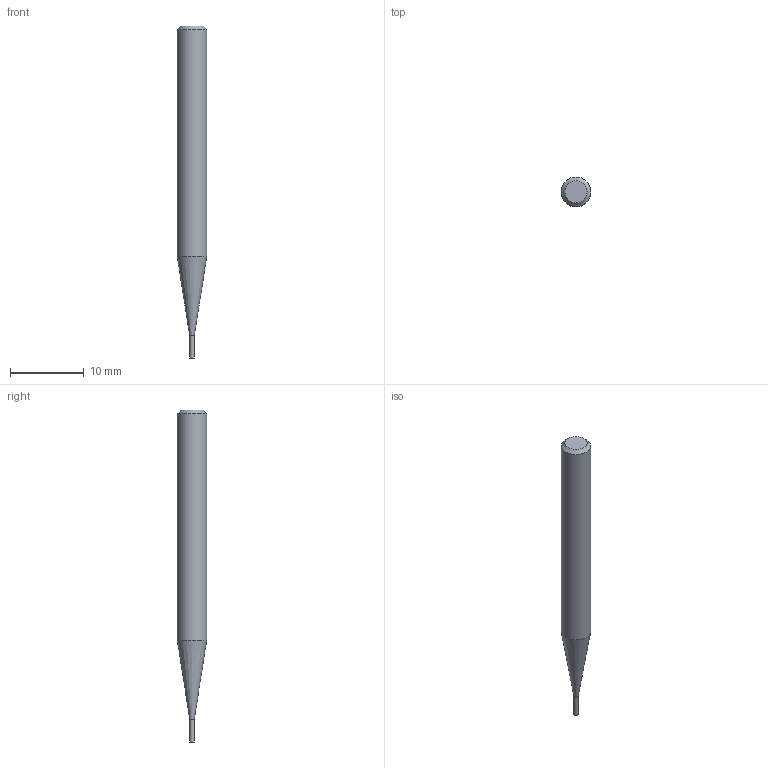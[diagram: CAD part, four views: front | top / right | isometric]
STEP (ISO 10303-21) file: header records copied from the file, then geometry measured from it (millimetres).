
FILE_DESCRIPTION((''),'2;1');
FILE_NAME('C:\Users\nsx150\Desktop\RSE230_20210427\01-00644-00601 RSE230 D0_6X3.step','2021-05-07T14:52:54',(''),(''),'STEP Write','Mastercam 2021 ... CNC Software, Inc.','');
FILE_SCHEMA(('AUTOMOTIVE_DESIGN'));
Length unit declared in the file: millimetre
Products named in the file (1): None
Bounding box: 4 x 4 x 45 mm (x, y, z)
Volume: 445 mm3; surface area: 486.5 mm2
Topology: 2 solids, 2 shells, 8 faces, 10 edges, 6 vertices
Faces by surface type: plane 4, cylinder 2, cone 2
Full cylindrical faces by diameter (mm): 0.6 x1, 4 x1
Entity records: 190 total; most frequent: DIRECTION 32, CARTESIAN_POINT 22, AXIS2_PLACEMENT_3D 16, ORIENTED_EDGE 12, EDGE_LOOP 12, STYLED_ITEM 11, ADVANCED_FACE 8, VERTEX_POINT 6
